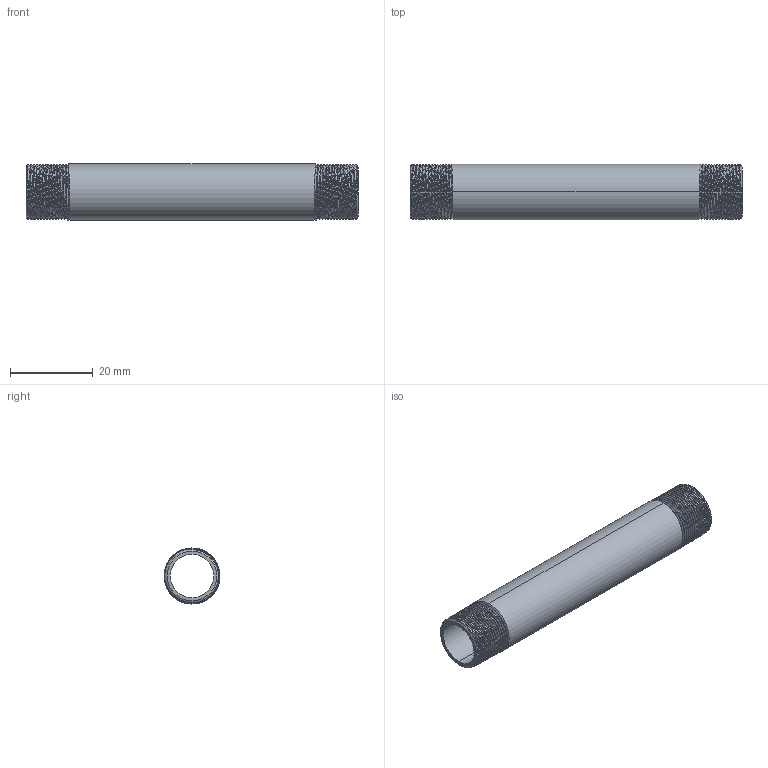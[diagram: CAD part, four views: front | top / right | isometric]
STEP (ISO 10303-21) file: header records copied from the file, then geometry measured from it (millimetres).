
FILE_DESCRIPTION (( 'STEP AP203' ), '1' );
FILE_NAME ('3D_R210_1-4x80_17185710.STEP', '2024-08-16T11:16:46', ( '' ), ( '' ), 'SwSTEP 2.0', 'SolidWorks 2024', '' );
FILE_SCHEMA (( 'CONFIG_CONTROL_DESIGN' ));
Length unit declared in the file: millimetre
Products named in the file (1): 3D_R210_1-4x80_17185710
Bounding box: 80 x 13.49 x 13.5 mm (x, y, z)
Volume: 4333.9 mm3; surface area: 6472.9 mm2
Topology: 1 solids, 1 shells, 76 faces, 216 edges, 142 vertices
Faces by surface type: cone 62, bspline 6, cylinder 4, plane 4
Entity records: 10859 total; most frequent: CARTESIAN_POINT 9099, ORIENTED_EDGE 432, DIRECTION 230, EDGE_CURVE 216, VERTEX_POINT 142, B_SPLINE_CURVE_WITH_KNOTS 130, AXIS2_PLACEMENT_3D 81, EDGE_LOOP 78
